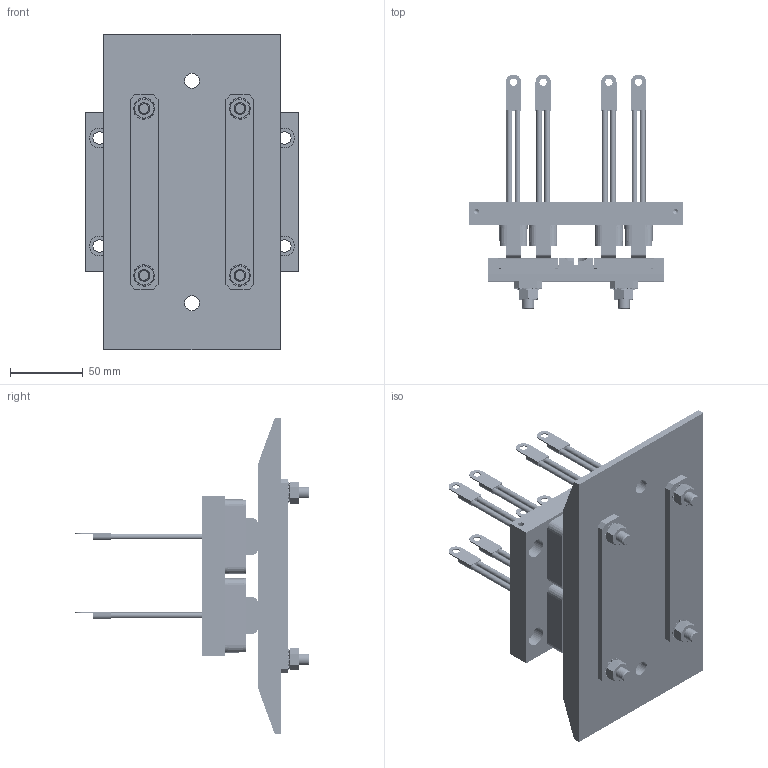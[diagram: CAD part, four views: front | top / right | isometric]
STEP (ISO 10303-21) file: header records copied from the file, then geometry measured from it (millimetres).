
FILE_DESCRIPTION (( 'STEP AP214' ), '1' );
FILE_NAME ('XA-BCL200A2WO.STEP', '2016-09-16T20:35:45', ( 'admin' ), ( 'Microsoft' ), 'SwSTEP 2.0', 'SolidWorks 2014', '' );
FILE_SCHEMA (( 'AUTOMOTIVE_DESIGN' ));
Length unit declared in the file: inch
Products named in the file (16): XA-564381_DEFAULT; XA-564378; XA-562696_default; XA-562730; XA-563289; XA-BCB200A2WO; XA-100289_B18.2.4.1M - Hex nut, Style 1,  M8 x 1.25 --D-C; XA-565023; XA-563925; XA-564382_B18.3.5M - 8 x 1.25 x 35 Socket FCHS  -- 35C; XA-564384_B18.21.2M-External Tooth Lock Washers_AM8; XA-564445; XA-563294; XA-BCL200A2WO; XA-BCC200A2WO; XA-564824_default
Assembly tree (88 placements, depth 3):
  XA-BCL200A2WO
    XA-BCB200A2WO
      XA-563294
      XA-564445  x2
      XA-564384_B18.21.2M-External Tooth Lock Washers_AM8  x4
      XA-564382_B18.3.5M - 8 x 1.25 x 35 Socket FCHS  -- 35C  x4
      XA-563925  x2
      XA-565023  x4
      XA-100289_B18.2.4.1M - Hex nut, Style 1,  M8 x 1.25 --D-C  x4
    XA-BCC200A2WO
      XA-563289
      XA-562730  x8
      XA-562696_default  x8
      XA-564378  x16
      XA-564381_DEFAULT  x16
      XA-564824_default  x16
Bounding box: 146.05 x 160.86 x 215.9 mm (x, y, z)
Volume: 751583.8 mm3; surface area: 281637.9 mm2
Topology: 86 solids, 102 shells, 2346 faces, 5666 edges, 3532 vertices
Faces by surface type: plane 1086, cylinder 652, cone 408, bspline 160, torus 40
Entity records: 25891 total; most frequent: CARTESIAN_POINT 10003, DIRECTION 3215, ORIENTED_EDGE 2790, EDGE_CURVE 1395, AXIS2_PLACEMENT_3D 1220, VERTEX_POINT 896, LINE 775, VECTOR 775
